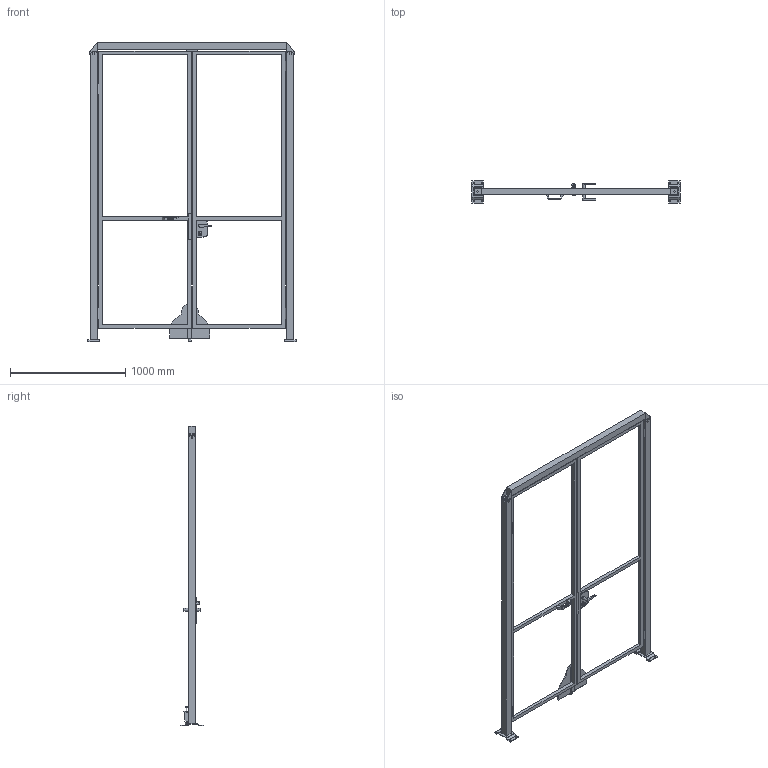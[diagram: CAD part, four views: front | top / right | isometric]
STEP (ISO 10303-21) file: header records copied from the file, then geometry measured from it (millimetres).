
FILE_DESCRIPTION(/* description */ (''),/* implementation_level */ '2;1');
FILE_NAME(/* name */ 'C:\SafeGuarding\ELABORATI\VZOR§GAMMA_2025-02-03-12-26-26.stp',/* time_stamp */ '2025-02-03T12:26:30+01:00',/* author */ ('admin'),/* organization */ (''),/* preprocessor_version */ 'ST-DEVELOPER v18.1',/* originating_system */ 'AutoCAD Mechanical',/* authorisation */ '');
FILE_SCHEMA (('AUTOMOTIVE_DESIGN { 1 0 10303 214 3 1 1 }'));
Length unit declared in the file: millimetre
Products named in the file (5): Product; *U4; DATI_PORTA; P_VFMA.ME60SDU.2520; VFPA.REPE30.08002400
Assembly tree (6 placements, depth 2):
  Product
    VFPA.REPE30.08002400  x2
    P_VFMA.ME60SDU.2520  x2
    *U4
    DATI_PORTA
Bounding box: 1805 x 192 x 2600.5 mm (x, y, z)
Volume: 38368696.5 mm3; surface area: 3936286.9 mm2
Topology: 30 solids, 41 shells, 397 faces, 1284 edges, 1200 vertices
Faces by surface type: plane 321, cylinder 71, bspline 4, cone 1
Full cylindrical faces by diameter (mm): 11 x25, 14 x2, 24 x1, 25 x2, 25.398 x2
Entity records: 12907 total; most frequent: CARTESIAN_POINT 3729, DIRECTION 1796, ORIENTED_EDGE 1640, EDGE_CURVE 869, LINE 734, VECTOR 734, VERTEX_POINT 616, AXIS2_PLACEMENT_3D 531
